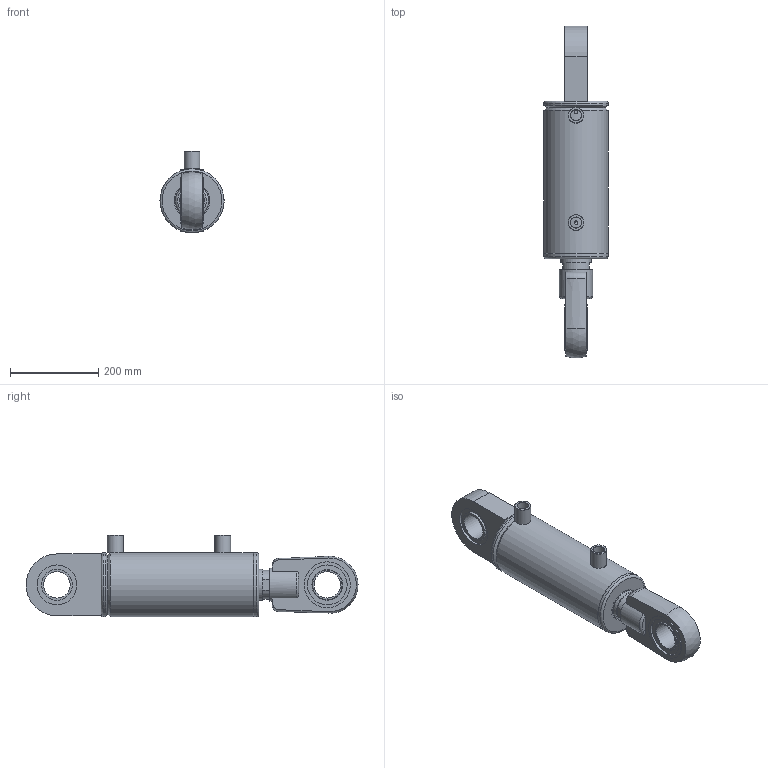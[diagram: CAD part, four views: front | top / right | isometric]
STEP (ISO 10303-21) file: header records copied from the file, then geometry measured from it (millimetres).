
FILE_DESCRIPTION(/* description */ (''),/* implementation_level */ '2;1');
FILE_NAME(/* name */ 'HC_A_125_70_200_AMB_WEB.step',/* time_stamp */ '2023-07-31T17:41:46+03:00',/* author */ (''),/* organization */ (''),/* preprocessor_version */ 'ST-DEVELOPER v20',/* originating_system */ 'Autodesk Translation Framework v12.9.0.99',/* authorisation */ '');
FILE_SCHEMA (('AUTOMOTIVE_DESIGN { 1 0 10303 214 3 1 1 }'));
Length unit declared in the file: millimetre
Products named in the file (17): TRACE_PARTS_125_70_100STROKE; TAK_125_145; Bileşen1; 125_145_HON_BORU; Bileşen1_1; TDK_125_70_M130X2; Bileşen1_2; K0_115X5; K33-070; K06-070; 70_HONLU_MİL; Bileşen1_3; RMV_60; dgihl_60_do; RMK_60; RMK_60_1; Manşon3_4
Assembly tree (17 placements, depth 3):
  TRACE_PARTS_125_70_100STROKE
    TAK_125_145
      Bileşen1
    125_145_HON_BORU
      Bileşen1_1
    TDK_125_70_M130X2
      Bileşen1_2
      K0_115X5
      K33-070
      K06-070
    70_HONLU_MİL
      Bileşen1_3
    RMV_60
      dgihl_60_do
    RMK_60
      RMK_60_1
    Manşon3_4  x2
Bounding box: 145 x 751.33 x 185 mm (x, y, z)
Volume: 4992180 mm3; surface area: 676103.4 mm2
Topology: 11 solids, 11 shells, 634 faces, 1625 edges, 1070 vertices
Faces by surface type: bspline 305, plane 203, cylinder 59, cone 48, torus 16, sphere 3
Full cylindrical faces by diameter (mm): 8 x2, 24.5 x2, 35 x1, 36 x2, 49.822 x1, 56.376 x1, 57.85 x1, 60 x3, 70 x5, 70.948 x2, 71.107 x1, 73.2 x1, 75 x1, 79.408 x1, 80 x1, 80.58 x1, 80.6 x1, 90 x4, 104 x2, 117 x1, 125 x2, 126 x3, 127.5 x1, 128.023 x1, 129.822 x1, 145 x3
Entity records: 29424 total; most frequent: CARTESIAN_POINT 15621, ORIENTED_EDGE 3216, DIRECTION 1945, EDGE_CURVE 1608, VERTEX_POINT 1060, LINE 707, VECTOR 707, EDGE_LOOP 704
